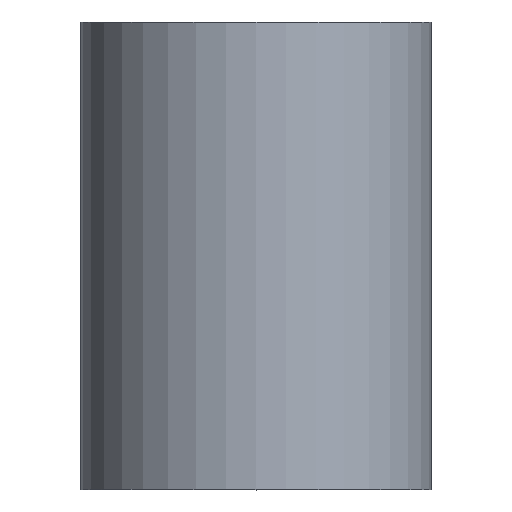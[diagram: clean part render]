
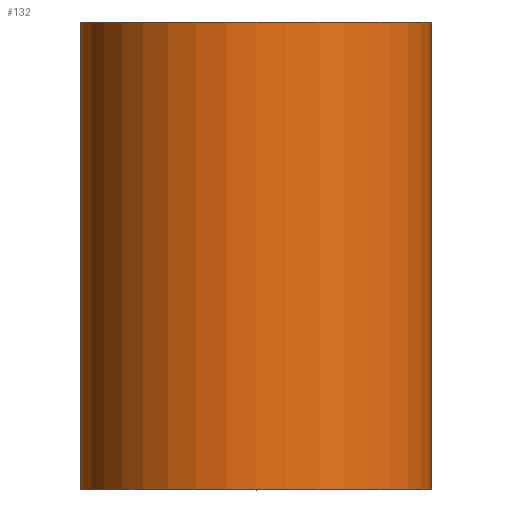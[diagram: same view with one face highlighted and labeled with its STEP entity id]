
A CAD part, top view. The second image highlights one B-rep face of the part: STEP entity #132.
In plain terms, the highlighted cylindrical face has radius 3 mm (diameter 6 mm), a partial arc.
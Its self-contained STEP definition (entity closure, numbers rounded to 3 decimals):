
#21 = AXIS2_PLACEMENT_3D ( 'NONE', #166, #72, #120 ) ;
#24 = CIRCLE ( 'NONE', #21, 3. ) ;
#28 = CIRCLE ( 'NONE', #272, 3. ) ;
#29 = DIRECTION ( 'NONE',  ( -1., 0., 0. ) ) ;
#32 = LINE ( 'NONE', #41, #144 ) ;
#41 = CARTESIAN_POINT ( 'NONE',  ( 3., 0., 0. ) ) ;
#53 = CARTESIAN_POINT ( 'NONE',  ( 3., 8., 0. ) ) ;
#69 = CARTESIAN_POINT ( 'NONE',  ( 3., 0., 0. ) ) ;
#72 = DIRECTION ( 'NONE',  ( 0., 1., 0. ) ) ;
#74 = ORIENTED_EDGE ( 'NONE', *, *, #92, .F. ) ;
#84 = CARTESIAN_POINT ( 'NONE',  ( -3., 0., 0. ) ) ;
#92 = EDGE_CURVE ( 'NONE', #158, #191, #24, .T. ) ;
#104 = EDGE_CURVE ( 'NONE', #273, #146, #28, .T. ) ;
#120 = DIRECTION ( 'NONE',  ( -1., 0., 0. ) ) ;
#121 = LINE ( 'NONE', #213, #249 ) ;
#123 = DIRECTION ( 'NONE',  ( 0., 1., 0. ) ) ;
#125 = ORIENTED_EDGE ( 'NONE', *, *, #104, .T. ) ;
#132 = ADVANCED_FACE ( 'NONE', ( #140 ), #155, .T. ) ;
#140 = FACE_OUTER_BOUND ( 'NONE', #246, .T. ) ;
#144 = VECTOR ( 'NONE', #240, 1000. ) ;
#146 = VERTEX_POINT ( 'NONE', #69 ) ;
#155 = CYLINDRICAL_SURFACE ( 'NONE', #172, 3. ) ;
#158 = VERTEX_POINT ( 'NONE', #193 ) ;
#161 = ORIENTED_EDGE ( 'NONE', *, *, #209, .F. ) ;
#166 = CARTESIAN_POINT ( 'NONE',  ( 0., 8., 0. ) ) ;
#170 = CARTESIAN_POINT ( 'NONE',  ( 0., 0., 0. ) ) ;
#171 = DIRECTION ( 'NONE',  ( 0., 1., 0. ) ) ;
#172 = AXIS2_PLACEMENT_3D ( 'NONE', #184, #171, #215 ) ;
#184 = CARTESIAN_POINT ( 'NONE',  ( 0., 0., 0. ) ) ;
#191 = VERTEX_POINT ( 'NONE', #53 ) ;
#193 = CARTESIAN_POINT ( 'NONE',  ( -3., 8., 0. ) ) ;
#209 = EDGE_CURVE ( 'NONE', #273, #158, #121, .T. ) ;
#213 = CARTESIAN_POINT ( 'NONE',  ( -3., 0., 0. ) ) ;
#215 = DIRECTION ( 'NONE',  ( -1., 0., 0. ) ) ;
#240 = DIRECTION ( 'NONE',  ( 0., 1., 0. ) ) ;
#246 = EDGE_LOOP ( 'NONE', ( #125, #278, #74, #161 ) ) ;
#249 = VECTOR ( 'NONE', #299, 1000. ) ;
#272 = AXIS2_PLACEMENT_3D ( 'NONE', #170, #123, #29 ) ;
#273 = VERTEX_POINT ( 'NONE', #84 ) ;
#278 = ORIENTED_EDGE ( 'NONE', *, *, #289, .T. ) ;
#289 = EDGE_CURVE ( 'NONE', #146, #191, #32, .T. ) ;
#299 = DIRECTION ( 'NONE',  ( 0., 1., 0. ) ) ;
